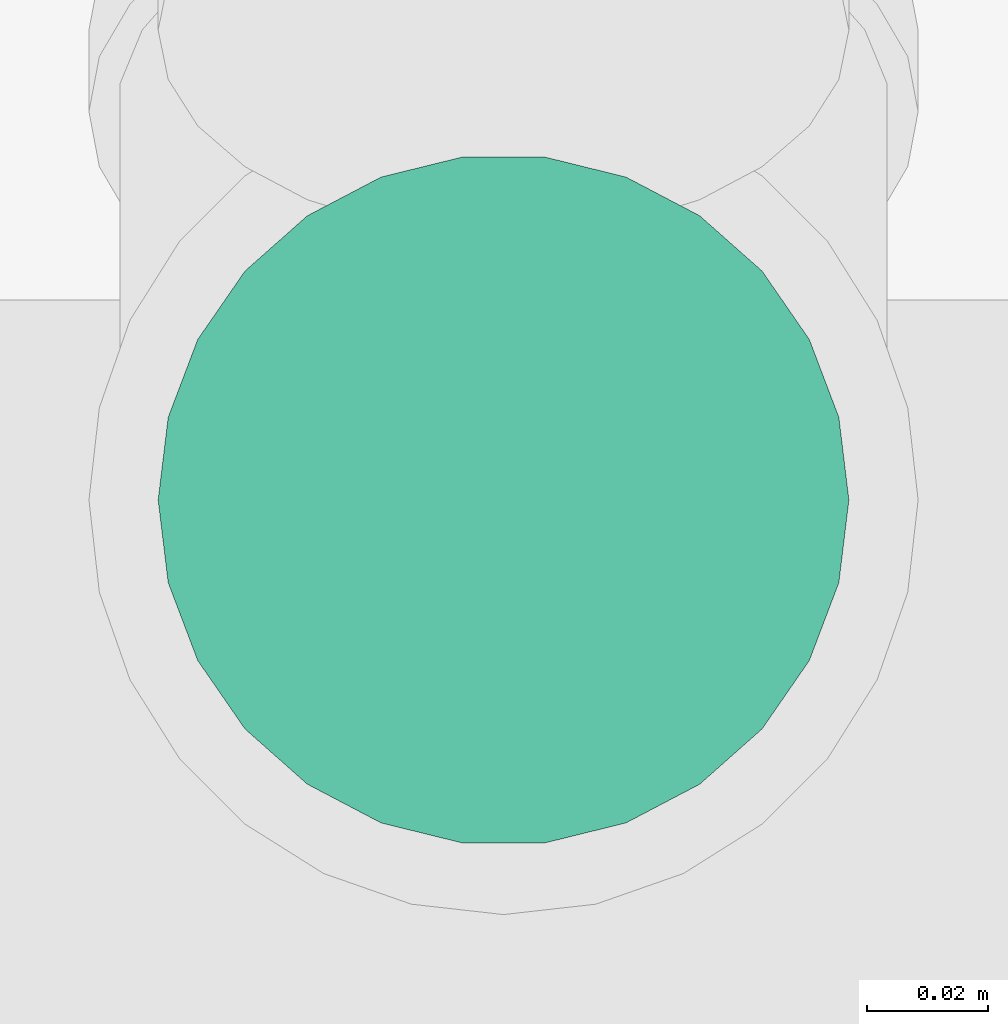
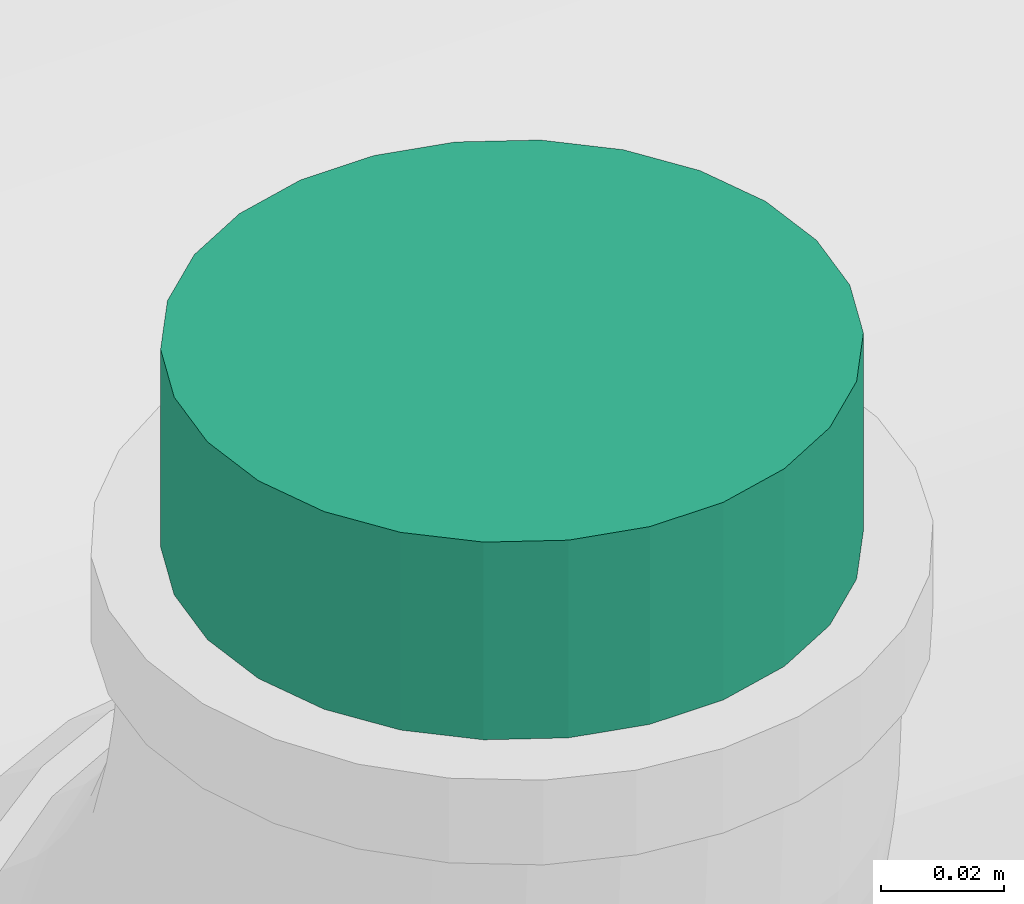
# One storey, part 36 of 108: 1 pipe segment.
"""IFC4 building model written with IfcOpenShell, lengths in feet."""

from ifc_helpers import new_model, entity, si_unit, converted_unit, derived_unit, direction, frame, origin, origin_2d_with_axis, place, context, subcontext, project, spatial, circle, extrude, type_object, element, save


model = new_model("IFC4")

# Units and contexts
model_context = context("Model", 3, precision=0.0001, world=origin(), true_north=direction((6.12303176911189e-17, 1.0)))
body_context = subcontext(model_context, "Body", "Model", "MODEL_VIEW")
ifc_project = project(units=[converted_unit("LENGTHUNIT", "FOOT", entity("IfcRatioMeasure", 0.3048), si_unit("LENGTHUNIT", "METRE"), dimensions=[1, 0, 0, 0, 0, 0, 0]), converted_unit("AREAUNIT", "SQUARE FOOT", entity("IfcRatioMeasure", 0.09290304), si_unit("AREAUNIT", "SQUARE_METRE"), dimensions=[2, 0, 0, 0, 0, 0, 0]), converted_unit("VOLUMEUNIT", "CUBIC FOOT", entity("IfcRatioMeasure", 0.028316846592), si_unit("VOLUMEUNIT", "CUBIC_METRE"), dimensions=[3, 0, 0, 0, 0, 0, 0]), converted_unit("PLANEANGLEUNIT", "DEGREE", entity("IfcRatioMeasure", 0.0174532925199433), si_unit("PLANEANGLEUNIT", "RADIAN"), dimensions=[0, 0, 0, 0, 0, 0, 0]), si_unit("MASSUNIT", "GRAM", prefix="KILO"), derived_unit("MASSDENSITYUNIT", [(si_unit("MASSUNIT", "GRAM", prefix="KILO"), 1), (si_unit("LENGTHUNIT", "METRE"), -3)]), si_unit("TIMEUNIT", "SECOND"), si_unit("FREQUENCYUNIT", "HERTZ"), si_unit("THERMODYNAMICTEMPERATUREUNIT", "DEGREE_CELSIUS"), derived_unit("THERMALTRANSMITTANCEUNIT", [(si_unit("MASSUNIT", "GRAM", prefix="KILO"), 1), (si_unit("THERMODYNAMICTEMPERATUREUNIT", "KELVIN"), -1), (si_unit("TIMEUNIT", "SECOND"), -3)]), derived_unit("VOLUMETRICFLOWRATEUNIT", [(si_unit("LENGTHUNIT", "METRE"), 3), (si_unit("TIMEUNIT", "SECOND"), -1)]), si_unit("ELECTRICCURRENTUNIT", "AMPERE"), si_unit("ELECTRICVOLTAGEUNIT", "VOLT"), si_unit("POWERUNIT", "WATT"), si_unit("FORCEUNIT", "NEWTON"), si_unit("ILLUMINANCEUNIT", "LUX"), si_unit("LUMINOUSFLUXUNIT", "LUMEN"), si_unit("LUMINOUSINTENSITYUNIT", "CANDELA"), derived_unit("USERDEFINED", [(si_unit("MASSUNIT", "GRAM", prefix="KILO"), -1), (si_unit("LENGTHUNIT", "METRE"), -2), (si_unit("TIMEUNIT", "SECOND"), 3), (si_unit("LUMINOUSFLUXUNIT", "LUMEN"), 1)]), derived_unit("LINEARVELOCITYUNIT", [(si_unit("LENGTHUNIT", "METRE"), 1), (si_unit("TIMEUNIT", "SECOND"), -1)]), si_unit("PRESSUREUNIT", "PASCAL"), derived_unit("USERDEFINED", [(si_unit("LENGTHUNIT", "METRE"), -2), (si_unit("MASSUNIT", "GRAM", prefix="KILO"), 1), (si_unit("TIMEUNIT", "SECOND"), -2)])], contexts=[model_context])

# Site, building, storey
site_placement = place(None, origin())
site = spatial("IfcSite", under=ifc_project, at=site_placement, Name="Default", CompositionType="ELEMENT")
building_placement = place(site_placement, origin())
building = spatial("IfcBuilding", under=site, at=building_placement, CompositionType="ELEMENT")
storey_placement = place(building_placement, frame((0.0, 0.0, 168.0)))
storey = spatial("IfcBuildingStorey", under=building, at=storey_placement, Name="Level 15", CompositionType="ELEMENT", Elevation=168.0)

# Pipe segment
pipe_segment_type = type_object("IfcPipeSegmentType", Name="Pipe Types:Hydronic", PredefinedType="NOTDEFINED")
pipe_segment_placement = place(storey_placement, frame((-40.0314526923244, -20.0210028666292, 11.943978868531)))
element("IfcPipeSegment", 1, at=pipe_segment_placement, inside=storey, type_object=pipe_segment_type, Name="Pipe Types:Hydronic", ObjectType="Pipe Types:Hydronic", PredefinedType="NOTDEFINED", context=body_context, shape_type="SweptSolid", body=[
    extrude(circle(Radius=0.1875, at=origin_2d_with_axis()), frame((0.192733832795, 0.192733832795, 0.0), z_axis=(0.0, 0.0, 1.0), x_axis=(-1.0, 0.0, 0.0)), (0.0, 0.0, 1.0), 0.128665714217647),
])

save(model, "model.ifc")
